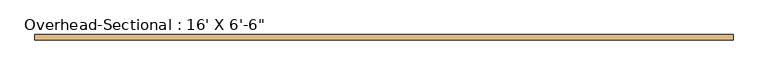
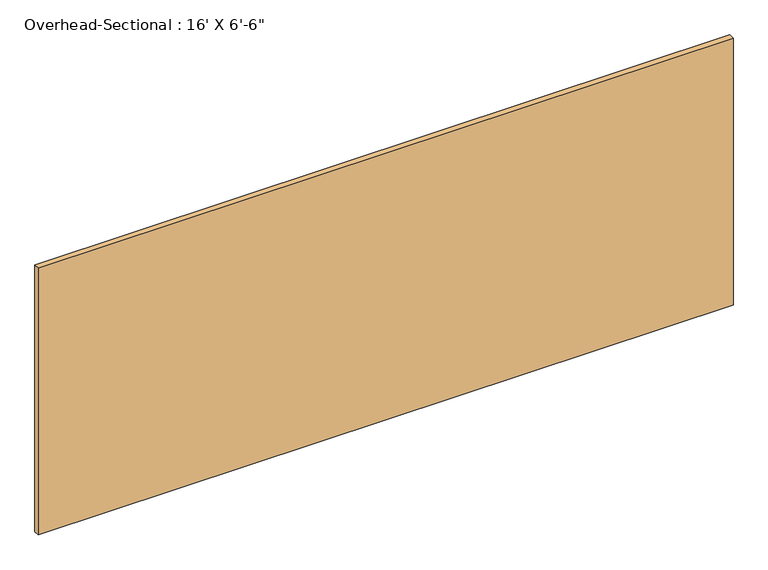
"""IFC4 building model written with IfcOpenShell, lengths in millimetres: door geometry."""

from ifc_helpers import new_model, si_unit, origin, origin_with_axes, place, context, project, spatial, polyline, outline, extrude, source, transform, mapped, element, save


def door_2ca4f690(model_context):
    return source(origin(), model_context, "Body", "SweptSolid", [
        extrude(outline(polyline([(2438.4, 177.8), (-2438.4, 177.8), (-2438.4, 215.9), (2438.4, 215.9), (2438.4, 177.8)])), origin_with_axes(), (0.0, 0.0, 1.0), 1981.2),
    ])


if __name__ == "__main__":
    model = new_model("IFC4")
    model_context = context("Model", 3, world=origin())
    ifc_project = project(units=[si_unit("LENGTHUNIT", "METRE", prefix="MILLI")], contexts=[model_context])
    site = spatial("IfcSite", under=ifc_project)
    building = spatial("IfcBuilding", under=site)
    placement = place(None, origin())
    door_shape = door_2ca4f690(model_context)
    element("IfcDoor", 1, ObjectType="Overhead-Sectional : 16' X 6'-6\"", at=placement, inside=building, context=model_context, shape_type="MappedRepresentation", body=[
        mapped(door_shape, transform((0.0, 0.0, 0.0), x_axis=(1.0, 0.0, 0.0), y_axis=(0.0, 1.0, 0.0), z_axis=(0.0, 0.0, 1.0))),
    ])
    save(model, "model.ifc")
